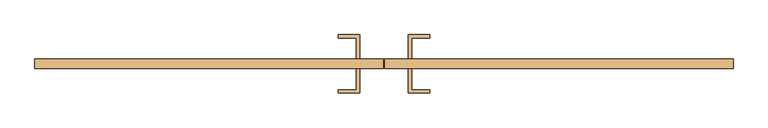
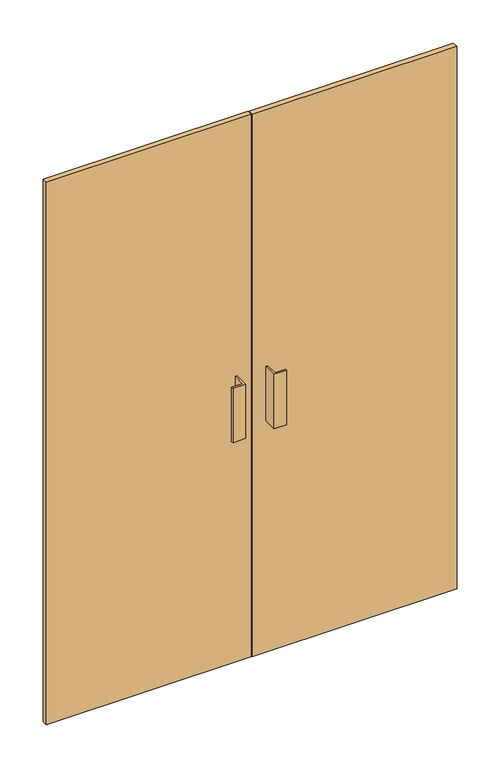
"""IFC4 building model written with IfcOpenShell, lengths in millimetres: door geometry, Дверь-Витраж-Двойная-Остекление : Дверь-Витраж-Двойная-Остекление."""

import ifcopenshell
import ifcopenshell.guid

model = None  # the IFC model being written
_history = None  # IfcOwnerHistory: only IFC2X3 demands one
_inside = {}  # id of a spatial element -> (the spatial element, [elements in it])
_under = {}  # id of a project, library or spatial element -> (it, [spatial elements below it])
_declared = {}  # id of a project -> (the project, [libraries it declares])
_typed = {}  # id of a type object -> (the type object, [elements of that type])
_made_of = {}  # id of a material, layer set ... -> (it, [elements and type objects made of it])


def new_model(schema):
    """Start an empty IFC model of exactly this schema.

    Asked for "IFC4X3", IfcOpenShell would pick the latest addendum, in which some entities
    have other attributes; the version numbers below select the first issue.
    IFC2X3 requires an IfcOwnerHistory on every rooted entity: one is made here for all.
    """
    global model, _history
    if schema == "IFC4X3":
        model = ifcopenshell.file(schema_version=(4, 3, 0, 0))
    else:
        model = ifcopenshell.file(schema=schema)
    _inside.clear()
    _under.clear()
    _declared.clear()
    _typed.clear()
    _made_of.clear()
    _history = None
    if model.schema == "IFC2X3":
        org = make("IfcOrganization", Name="unknown")
        user = make(
            "IfcPersonAndOrganization",
            ThePerson=make("IfcPerson", FamilyName="unknown"),
            TheOrganization=org,
        )
        app = make(
            "IfcApplication",
            ApplicationDeveloper=org,
            Version="unknown",
            ApplicationFullName="unknown",
            ApplicationIdentifier="unknown",
        )
        _history = make(
            "IfcOwnerHistory",
            OwningUser=user,
            OwningApplication=app,
            ChangeAction="ADDED",
            CreationDate=0,
        )
    return model


def make(cls, **values):
    """One entity of the class cls with the attributes given. An attribute that is None is left unset."""
    return model.create_entity(
        cls, **{name: value for name, value in values.items() if value is not None}
    )


def rooted(cls, **values):
    """An entity with a GlobalId (a new one), such as an element, a storey or a relation."""
    return make(cls, GlobalId=ifcopenshell.guid.new(), OwnerHistory=_history, **values)


def si_unit(unit_type, name, prefix=None):
    """IfcSIUnit, for example si_unit("LENGTHUNIT", "METRE", prefix="MILLI")."""
    return make("IfcSIUnit", UnitType=unit_type, Prefix=prefix, Name=name)


def assignment(units):
    """IfcUnitAssignment: the units of a project."""
    return None if units is None else make("IfcUnitAssignment", Units=units)


def point(xyz):
    """IfcCartesianPoint."""
    return None if xyz is None else make("IfcCartesianPoint", Coordinates=xyz)


def direction(xyz):
    """IfcDirection."""
    return None if xyz is None else make("IfcDirection", DirectionRatios=xyz)


def frame(location, z_axis=None, x_axis=None):
    """IfcAxis2Placement3D, a coordinate frame: its origin and axes. An axis left out is left unset."""
    return make(
        "IfcAxis2Placement3D",
        Location=point(location),
        Axis=direction(z_axis),
        RefDirection=direction(x_axis),
    )


def origin():
    """The frame at (0, 0, 0) with its axes left unset."""
    return frame((0.0, 0.0, 0.0))


def origin_with_axes():
    """The frame at (0, 0, 0) with the z axis (0, 0, 1) and the x axis (1, 0, 0) written out."""
    return frame((0.0, 0.0, 0.0), z_axis=(0.0, 0.0, 1.0), x_axis=(1.0, 0.0, 0.0))


def place(relative_to, where):
    """IfcLocalPlacement: puts the frame where relative to a parent placement (None: the world)."""
    return make(
        "IfcLocalPlacement", PlacementRelTo=relative_to, RelativePlacement=where
    )


def context(
    kind, dimensions, precision=None, world=None, true_north=None, identifier=None
):
    """IfcGeometricRepresentationContext, for example the 3D "Model" context."""
    return make(
        "IfcGeometricRepresentationContext",
        ContextIdentifier=identifier,
        ContextType=kind,
        CoordinateSpaceDimension=dimensions,
        Precision=precision,
        WorldCoordinateSystem=world,
        TrueNorth=true_north,
    )


def project(units=None, contexts=None):
    """IfcProject with its units and contexts."""
    return rooted(
        "IfcProject",
        Name="project",
        RepresentationContexts=contexts,
        UnitsInContext=assignment(units),
    )


def spatial(cls, under=None, at=None, **own):
    """A site, building, storey or space (cls), placed at a placement, below another one or the project."""
    s = rooted(cls, ObjectPlacement=at, **own)
    if under is not None:
        _under.setdefault(under.id(), (under, []))[1].append(s)
    return s


def polyline(points):
    """IfcPolyline through the points."""
    return make("IfcPolyline", Points=[point(p) for p in points])


def outline(outer, holes=None, kind="AREA"):
    """IfcArbitraryClosedProfileDef: a profile drawn as a closed curve; with holes, ...WithVoids."""
    if holes is None:
        return make("IfcArbitraryClosedProfileDef", ProfileType=kind, OuterCurve=outer)
    return make(
        "IfcArbitraryProfileDefWithVoids",
        ProfileType=kind,
        OuterCurve=outer,
        InnerCurves=holes,
    )


def extrude(swept, where, along, depth):
    """IfcExtrudedAreaSolid: the profile swept, set in the frame where, extruded along a direction by depth."""
    return make(
        "IfcExtrudedAreaSolid",
        SweptArea=swept,
        Position=where,
        ExtrudedDirection=direction(along),
        Depth=depth,
    )


def shape(context_of_items, identifier, shape_type, items):
    """IfcShapeRepresentation: the items that make up one representation, for example the "Body"."""
    return make(
        "IfcShapeRepresentation",
        ContextOfItems=context_of_items,
        RepresentationIdentifier=identifier,
        RepresentationType=shape_type,
        Items=items,
    )


def source(mapping_origin, context_of_items, identifier, shape_type, items):
    """IfcRepresentationMap: a shape defined once, which mapped items show again and again."""
    return make(
        "IfcRepresentationMap",
        MappingOrigin=mapping_origin,
        MappedRepresentation=shape(context_of_items, identifier, shape_type, items),
    )


def transform(
    local_origin,
    x_axis=None,
    y_axis=None,
    z_axis=None,
    scale=None,
    scale2=None,
    scale3=None,
    uniform=True,
):
    """IfcCartesianTransformationOperator3D, or its non-uniform kind. x_axis, y_axis, z_axis: its Axis1, 2, 3."""
    if uniform:
        return make(
            "IfcCartesianTransformationOperator3D",
            Axis1=direction(x_axis),
            Axis2=direction(y_axis),
            LocalOrigin=point(local_origin),
            Scale=scale,
            Axis3=direction(z_axis),
        )
    return make(
        "IfcCartesianTransformationOperator3DnonUniform",
        Axis1=direction(x_axis),
        Axis2=direction(y_axis),
        LocalOrigin=point(local_origin),
        Scale=scale,
        Axis3=direction(z_axis),
        Scale2=scale2,
        Scale3=scale3,
    )


def mapped(mapping_source, mapping_target):
    """IfcMappedItem: shows the shape of a source again, moved by a transform."""
    return make(
        "IfcMappedItem", MappingSource=mapping_source, MappingTarget=mapping_target
    )


def made_of(thing, what):
    """Note that an element or type object is made of a material, layer set ...; save() writes the relation."""
    if what is not None:
        _made_of.setdefault(what.id(), (what, []))[1].append(thing)
    return thing


def element(
    cls,
    number,
    at=None,
    inside=None,
    cuts=None,
    type_object=None,
    material=None,
    context=None,
    identifier="Body",
    shape_type=None,
    held_by="IfcProductDefinitionShape",
    body=None,
    shapes=None,
    **own,
):
    """One element of the class cls, such as IfcWall. Its Tag is "e" and its number.

    at: its placement. inside: the storey or other place that contains it. cuts: it is an
    opening in that element (IfcRelVoidsElement). A single representation is given by context,
    identifier, shape_type and body (its items); several are given by shapes. held_by: the class
    of the entity that holds the representations. save() writes the other relations.
    """
    e = rooted(cls, Tag="e%d" % number, ObjectPlacement=at, **own)
    if body is not None:
        shapes = [shape(context, identifier, shape_type, body)]
    if shapes is not None:
        e.Representation = make(held_by, Representations=shapes)
    if inside is not None:
        _inside.setdefault(inside.id(), (inside, []))[1].append(e)
    if cuts is not None:
        rooted(
            "IfcRelVoidsElement", RelatingBuildingElement=cuts, RelatedOpeningElement=e
        )
    if type_object is not None:
        _typed.setdefault(type_object.id(), (type_object, []))[1].append(e)
    return made_of(e, material)


def aggregate(whole, parts):
    """IfcRelAggregates: a whole, such as a stair, and the parts it consists of."""
    return rooted("IfcRelAggregates", RelatingObject=whole, RelatedObjects=parts)


def save(model, path):
    """Write the relations noted so far, then the file.

    IfcRelAggregates (storeys below a building ...), IfcRelContainedInSpatialStructure (elements
    in a storey), IfcRelDefinesByType, IfcRelAssociatesMaterial and IfcRelDeclares: one each for
    every whole, place, type object, material and project.
    """
    for whole, parts in _under.values():
        aggregate(whole, parts)
    for where, things in _inside.values():
        rooted(
            "IfcRelContainedInSpatialStructure",
            RelatedElements=things,
            RelatingStructure=where,
        )
    for kind, things in _typed.values():
        rooted("IfcRelDefinesByType", RelatedObjects=things, RelatingType=kind)
    for what, things in _made_of.values():
        rooted("IfcRelAssociatesMaterial", RelatedObjects=things, RelatingMaterial=what)
    for by, libraries in _declared.values():
        rooted("IfcRelDeclares", RelatingContext=by, RelatedDefinitions=libraries)
    model.write(path)


def door_0a8a7f3a(model_context):
    return source(origin(), model_context, "Body", "SweptSolid", [
        extrude(outline(polyline([(-1.5643999, -31.75), (-1.5643999, -50.8), (-725.0, -50.8), (-725.0, -31.75), (-1.5643999, -31.75)])), origin_with_axes(), (0.0, 0.0, 1.0), 2025.0),
        extrude(outline(polyline([(725.0, -31.75), (725.0, -50.8), (1.6106001, -50.8), (1.6106001, -31.75), (725.0, -31.75)])), origin_with_axes(), (0.0, 0.0, 1.0), 2025.0),
        extrude(outline(polyline([(-50.7768999, -101.6), (-95.2268999, -101.6), (-95.2268999, -95.25), (-57.1268999, -95.25), (-57.1268999, -50.8), (-50.7768999, -50.8), (-50.7768999, -101.6)])), frame((0.0, 0.0, 863.6), z_axis=(0.0, 0.0, 1.0), x_axis=(1.0, 0.0, 0.0)), (0.0, 0.0, 1.0), 203.2),
        extrude(outline(polyline([(50.8231001, -101.6), (50.8231001, -50.8), (57.1731001, -50.8), (57.1731001, -95.25), (95.2731001, -95.25), (95.2731001, -101.6), (50.8231001, -101.6)])), frame((0.0, 0.0, 863.6), z_axis=(0.0, 0.0, 1.0), x_axis=(1.0, 0.0, 0.0)), (0.0, 0.0, 1.0), 203.2),
        extrude(outline(polyline([(-50.7768999, 19.05), (-50.7768999, -31.75), (-57.1268999, -31.75), (-57.1268999, 12.7), (-95.2268999, 12.7), (-95.2268999, 19.05), (-50.7768999, 19.05)])), frame((0.0, 0.0, 863.6), z_axis=(0.0, 0.0, 1.0), x_axis=(1.0, 0.0, 0.0)), (0.0, 0.0, 1.0), 203.2),
        extrude(outline(polyline([(50.8231001, 19.05), (95.2731001, 19.05), (95.2731001, 12.7), (57.1731001, 12.7), (57.1731001, -31.75), (50.8231001, -31.75), (50.8231001, 19.05)])), frame((0.0, 0.0, 863.6), z_axis=(0.0, 0.0, 1.0), x_axis=(1.0, 0.0, 0.0)), (0.0, 0.0, 1.0), 203.2),
    ])


if __name__ == "__main__":
    model = new_model("IFC4")
    model_context = context("Model", 3, world=origin())
    ifc_project = project(units=[si_unit("LENGTHUNIT", "METRE", prefix="MILLI")], contexts=[model_context])
    site = spatial("IfcSite", under=ifc_project)
    building = spatial("IfcBuilding", under=site)
    placement = place(None, origin())
    door_shape = door_0a8a7f3a(model_context)
    element("IfcDoor", 1, ObjectType="Дверь-Витраж-Двойная-Остекление : Дверь-Витраж-Двойная-Остекление", at=placement, inside=building, context=model_context, shape_type="MappedRepresentation", body=[
        mapped(door_shape, transform((0.0, 0.0, 0.0), x_axis=(1.0, 0.0, 0.0), y_axis=(0.0, 1.0, 0.0), z_axis=(0.0, 0.0, 1.0))),
    ])
    save(model, "model.ifc")
